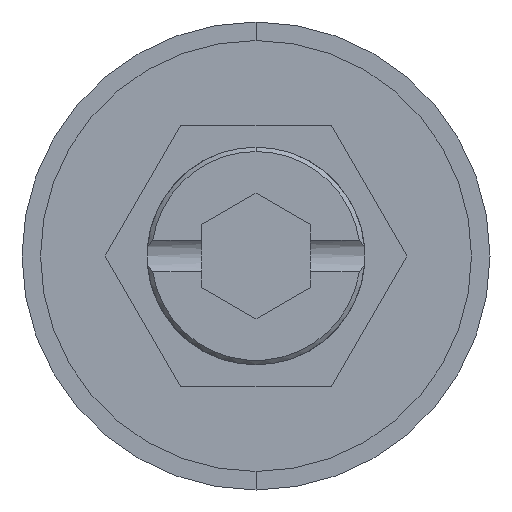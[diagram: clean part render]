
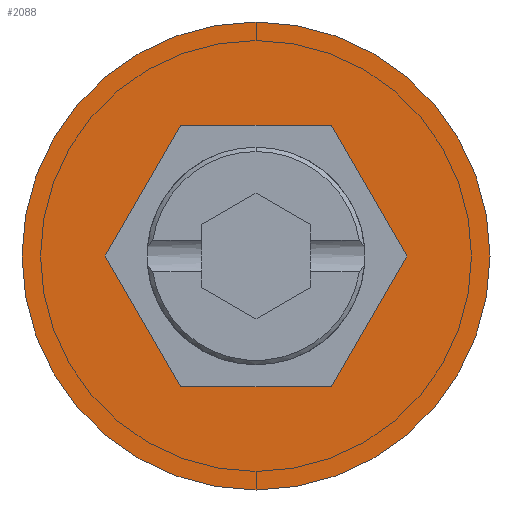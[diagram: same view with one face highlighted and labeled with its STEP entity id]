
A CAD part, front view. The second image highlights one B-rep face of the part: STEP entity #2088.
In plain terms, the highlighted planar face has unit normal (0, -1, 0).
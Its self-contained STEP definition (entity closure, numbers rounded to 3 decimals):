
#49 = EDGE_CURVE ( 'NONE', #1139, #694, #1359, .T. ) ;
#83 = CARTESIAN_POINT ( 'NONE',  ( -6.928, 0., 0. ) ) ;
#90 = VERTEX_POINT ( 'NONE', #834 ) ;
#101 = DIRECTION ( 'NONE',  ( 0., 0., -1. ) ) ;
#123 = ORIENTED_EDGE ( 'NONE', *, *, #303, .F. ) ;
#138 = CARTESIAN_POINT ( 'NONE',  ( 0., 0., 0. ) ) ;
#154 = ORIENTED_EDGE ( 'NONE', *, *, #958, .T. ) ;
#303 = EDGE_CURVE ( 'NONE', #90, #2984, #765, .T. ) ;
#389 = ORIENTED_EDGE ( 'NONE', *, *, #2457, .F. ) ;
#408 = CARTESIAN_POINT ( 'NONE',  ( -3.464, 0., -6. ) ) ;
#516 = CIRCLE ( 'NONE', #1350, 10.75 ) ;
#600 = DIRECTION ( 'NONE',  ( 0., 0., -1. ) ) ;
#694 = VERTEX_POINT ( 'NONE', #1184 ) ;
#765 = LINE ( 'NONE', #3505, #4391 ) ;
#834 = CARTESIAN_POINT ( 'NONE',  ( 6.928, 0., 0. ) ) ;
#911 = LINE ( 'NONE', #2349, #4381 ) ;
#958 = EDGE_CURVE ( 'NONE', #3723, #2033, #1679, .T. ) ;
#1139 = VERTEX_POINT ( 'NONE', #4017 ) ;
#1184 = CARTESIAN_POINT ( 'NONE',  ( 3.464, 0., -6. ) ) ;
#1350 = AXIS2_PLACEMENT_3D ( 'NONE', #5524, #2819, #101 ) ;
#1359 = LINE ( 'NONE', #408, #3623 ) ;
#1438 = ORIENTED_EDGE ( 'NONE', *, *, #2948, .F. ) ;
#1622 = EDGE_LOOP ( 'NONE', ( #154, #2198 ) ) ;
#1679 = CIRCLE ( 'NONE', #5332, 10.75 ) ;
#1781 = EDGE_LOOP ( 'NONE', ( #3937, #389, #3214, #1438, #123, #3771 ) ) ;
#1821 = CARTESIAN_POINT ( 'NONE',  ( 0., 0., 0. ) ) ;
#2033 = VERTEX_POINT ( 'NONE', #3161 ) ;
#2063 = CARTESIAN_POINT ( 'NONE',  ( 0., 0., -10.75 ) ) ;
#2088 = ADVANCED_FACE ( 'NONE', ( #2907, #5289 ), #4526, .T. ) ;
#2195 = EDGE_CURVE ( 'NONE', #2033, #3723, #516, .T. ) ;
#2198 = ORIENTED_EDGE ( 'NONE', *, *, #2195, .T. ) ;
#2273 = DIRECTION ( 'NONE',  ( 0., -1., 0. ) ) ;
#2325 = VECTOR ( 'NONE', #3006, 1000. ) ;
#2349 = CARTESIAN_POINT ( 'NONE',  ( 3.464, 0., -6. ) ) ;
#2457 = EDGE_CURVE ( 'NONE', #3954, #1139, #3928, .T. ) ;
#2464 = LINE ( 'NONE', #5731, #2325 ) ;
#2604 = DIRECTION ( 'NONE',  ( -1., 0., 0. ) ) ;
#2819 = DIRECTION ( 'NONE',  ( 0., -1., 0. ) ) ;
#2907 = FACE_BOUND ( 'NONE', #1781, .T. ) ;
#2948 = EDGE_CURVE ( 'NONE', #2984, #3197, #5518, .T. ) ;
#2984 = VERTEX_POINT ( 'NONE', #3965 ) ;
#3006 = DIRECTION ( 'NONE',  ( -0.5, 0., -0.866 ) ) ;
#3161 = CARTESIAN_POINT ( 'NONE',  ( 0., 0., 10.75 ) ) ;
#3197 = VERTEX_POINT ( 'NONE', #5694 ) ;
#3214 = ORIENTED_EDGE ( 'NONE', *, *, #5490, .F. ) ;
#3312 = CARTESIAN_POINT ( 'NONE',  ( -6.928, 0., 0. ) ) ;
#3315 = DIRECTION ( 'NONE',  ( 0., -1., 0. ) ) ;
#3505 = CARTESIAN_POINT ( 'NONE',  ( 6.928, 0., 0. ) ) ;
#3623 = VECTOR ( 'NONE', #4015, 1000. ) ;
#3723 = VERTEX_POINT ( 'NONE', #2063 ) ;
#3764 = DIRECTION ( 'NONE',  ( 0.5, 0., -0.866 ) ) ;
#3771 = ORIENTED_EDGE ( 'NONE', *, *, #3946, .F. ) ;
#3884 = AXIS2_PLACEMENT_3D ( 'NONE', #1821, #2273, #5436 ) ;
#3928 = LINE ( 'NONE', #3312, #5019 ) ;
#3937 = ORIENTED_EDGE ( 'NONE', *, *, #49, .F. ) ;
#3946 = EDGE_CURVE ( 'NONE', #694, #90, #911, .T. ) ;
#3954 = VERTEX_POINT ( 'NONE', #83 ) ;
#3965 = CARTESIAN_POINT ( 'NONE',  ( 3.464, 0., 6. ) ) ;
#4015 = DIRECTION ( 'NONE',  ( 1., 0., 0. ) ) ;
#4017 = CARTESIAN_POINT ( 'NONE',  ( -3.464, 0., -6. ) ) ;
#4148 = DIRECTION ( 'NONE',  ( 0.5, 0., 0.866 ) ) ;
#4381 = VECTOR ( 'NONE', #4148, 1000. ) ;
#4391 = VECTOR ( 'NONE', #5743, 1000. ) ;
#4526 = PLANE ( 'NONE',  #3884 ) ;
#5019 = VECTOR ( 'NONE', #3764, 1000. ) ;
#5289 = FACE_OUTER_BOUND ( 'NONE', #1622, .T. ) ;
#5332 = AXIS2_PLACEMENT_3D ( 'NONE', #138, #3315, #600 ) ;
#5353 = VECTOR ( 'NONE', #2604, 1000. ) ;
#5436 = DIRECTION ( 'NONE',  ( 0., 0., -1. ) ) ;
#5490 = EDGE_CURVE ( 'NONE', #3197, #3954, #2464, .T. ) ;
#5518 = LINE ( 'NONE', #5769, #5353 ) ;
#5524 = CARTESIAN_POINT ( 'NONE',  ( 0., 0., 0. ) ) ;
#5694 = CARTESIAN_POINT ( 'NONE',  ( -3.464, 0., 6. ) ) ;
#5731 = CARTESIAN_POINT ( 'NONE',  ( -3.464, 0., 6. ) ) ;
#5743 = DIRECTION ( 'NONE',  ( -0.5, 0., 0.866 ) ) ;
#5769 = CARTESIAN_POINT ( 'NONE',  ( 3.464, 0., 6. ) ) ;
